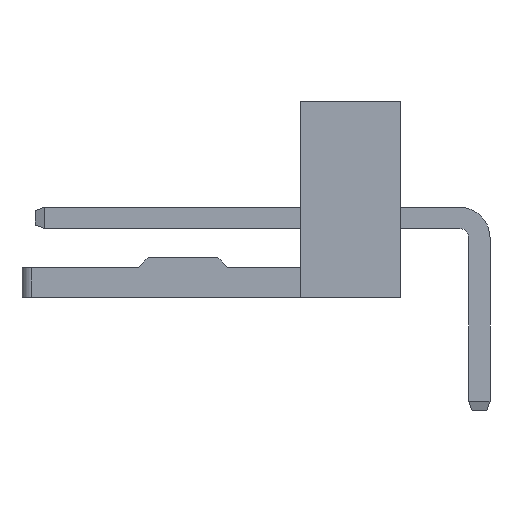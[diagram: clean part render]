
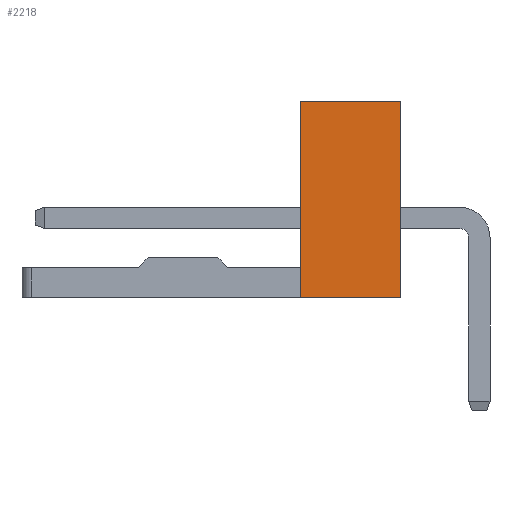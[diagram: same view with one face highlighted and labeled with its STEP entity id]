
A CAD part, left-side view. The second image highlights one B-rep face of the part: STEP entity #2218.
In plain terms, the highlighted planar face has unit normal (-1, 0, 0).
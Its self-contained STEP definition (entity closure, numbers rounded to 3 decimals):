
#119=FACE_OUTER_BOUND('',#241,.T.);
#241=EDGE_LOOP('',(#1642,#1643,#1644,#1645));
#426=LINE('',#3372,#704);
#432=LINE('',#3386,#710);
#438=LINE('',#3396,#716);
#451=LINE('',#3423,#729);
#704=VECTOR('',#2782,1000.);
#710=VECTOR('',#2794,1000.);
#716=VECTOR('',#2802,1000.);
#729=VECTOR('',#2827,1000.);
#946=VERTEX_POINT('',#3369);
#947=VERTEX_POINT('',#3371);
#951=VERTEX_POINT('',#3383);
#952=VERTEX_POINT('',#3385);
#1177=EDGE_CURVE('',#946,#947,#426,.T.);
#1184=EDGE_CURVE('',#952,#951,#432,.T.);
#1190=EDGE_CURVE('',#951,#947,#438,.T.);
#1203=EDGE_CURVE('',#946,#952,#451,.T.);
#1642=ORIENTED_EDGE('',*,*,#1190,.T.);
#1643=ORIENTED_EDGE('',*,*,#1177,.F.);
#1644=ORIENTED_EDGE('',*,*,#1203,.T.);
#1645=ORIENTED_EDGE('',*,*,#1184,.T.);
#1983=PLANE('',#2471);
#2218=ADVANCED_FACE('',(#119),#1983,.T.);
#2471=AXIS2_PLACEMENT_3D('',#3424,#2828,#2829);
#2782=DIRECTION('',(0.,1.,0.));
#2794=DIRECTION('',(0.,1.,0.));
#2802=DIRECTION('',(0.,0.,-1.));
#2827=DIRECTION('',(0.,0.,1.));
#2828=DIRECTION('center_axis',(-1.,0.,0.));
#2829=DIRECTION('ref_axis',(0.,0.,1.));
#3369=CARTESIAN_POINT('',(-1.27,2.38,0.));
#3371=CARTESIAN_POINT('',(-1.27,5.38,0.));
#3372=CARTESIAN_POINT('',(-1.27,2.38,0.));
#3383=CARTESIAN_POINT('',(-1.27,5.38,5.9));
#3385=CARTESIAN_POINT('',(-1.27,2.38,5.9));
#3386=CARTESIAN_POINT('',(-1.27,2.38,5.9));
#3396=CARTESIAN_POINT('',(-1.27,5.38,0.));
#3423=CARTESIAN_POINT('',(-1.27,2.38,0.));
#3424=CARTESIAN_POINT('Origin',(-1.27,2.38,0.));
